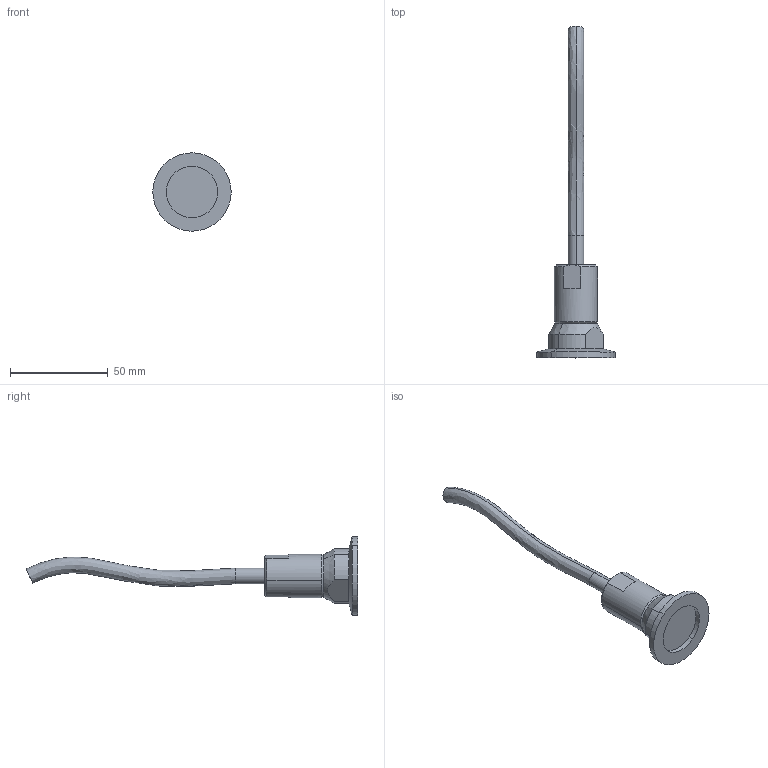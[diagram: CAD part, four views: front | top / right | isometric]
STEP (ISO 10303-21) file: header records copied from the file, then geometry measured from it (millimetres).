
FILE_DESCRIPTION (( 'STEP AP203' ), '1' );
FILE_NAME ('NX100炵蹈帣窒.STEP', '2026-09-02T00:52:45', ( '' ), ( '' ), 'SwSTEP 2.0', 'SolidWorks 2024', '' );
FILE_SCHEMA (( 'CONFIG_CONTROL_DESIGN' ));
Length unit declared in the file: millimetre
Products named in the file (1): NX100系列尾部
Bounding box: 39.99 x 169.4 x 39.99 mm (x, y, z)
Volume: 28096.3 mm3; surface area: 9841.7 mm2
Topology: 2 solids, 2 shells, 40 faces, 89 edges, 55 vertices
Faces by surface type: plane 18, cylinder 11, cone 9, bspline 2
Entity records: 1517 total; most frequent: CARTESIAN_POINT 555, DIRECTION 194, ORIENTED_EDGE 178, EDGE_CURVE 89, AXIS2_PLACEMENT_3D 82, VERTEX_POINT 55, CIRCLE 43, EDGE_LOOP 42
